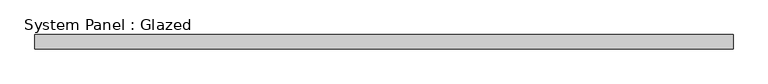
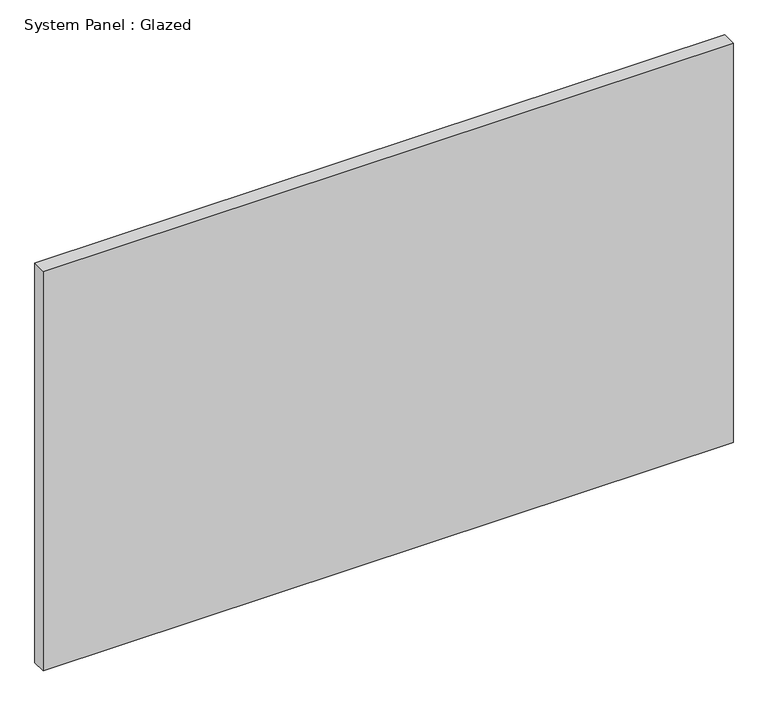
"""IFC4 building model written with IfcOpenShell, lengths in millimetres: plate geometry, System Panel : Glazed."""

from ifc_helpers import new_model, si_unit, origin, origin_with_axes, place, context, project, spatial, polyline, outline, extrude, source, transform, mapped, element, save


def system_panel_glazed_4fe77780(model_context):
    return source(origin(), model_context, "Body", "SweptSolid", [
        extrude(outline(polyline([(619.2304533, 19.05), (-619.2304533, 19.05), (-619.2304533, 44.45), (619.2304533, 44.45), (619.2304533, 19.05)])), origin_with_axes(), (0.0, 0.0, 1.0), 758.2776451),
    ])


if __name__ == "__main__":
    model = new_model("IFC4")
    model_context = context("Model", 3, world=origin())
    ifc_project = project(units=[si_unit("LENGTHUNIT", "METRE", prefix="MILLI")], contexts=[model_context])
    site = spatial("IfcSite", under=ifc_project)
    building = spatial("IfcBuilding", under=site)
    placement = place(None, origin())
    system_panel_glazed_shape = system_panel_glazed_4fe77780(model_context)
    element("IfcPlate", 1, ObjectType="System Panel : Glazed", at=placement, inside=building, context=model_context, shape_type="MappedRepresentation", body=[
        mapped(system_panel_glazed_shape, transform((0.0, 0.0, 0.0), x_axis=(1.0, 0.0, 0.0), y_axis=(0.0, 1.0, 0.0), z_axis=(0.0, 0.0, 1.0))),
    ])
    save(model, "model.ifc")
